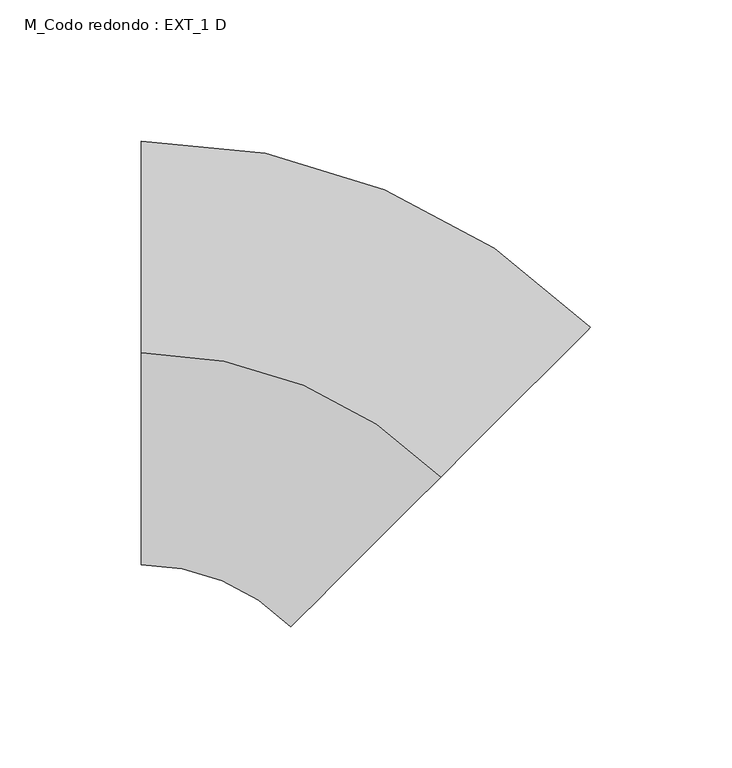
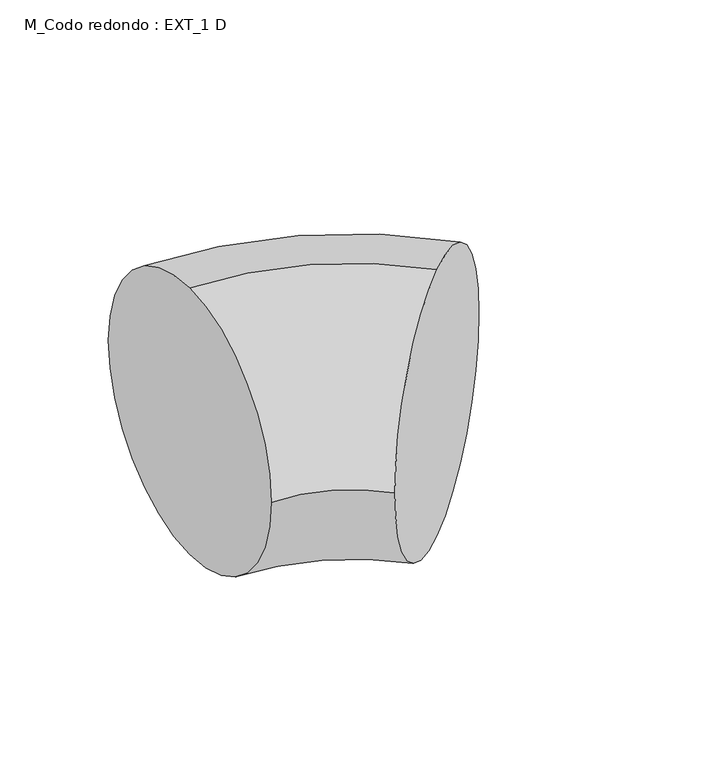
"""IFC4 building model written with IfcOpenShell, lengths in millimetres: duct fitting geometry, M_Codo redondo : EXT_1 D."""

from ifc_helpers import new_model, si_unit, point, frame, origin, place, context, project, spatial, circle_curve, ellipse_curve, trimmed, source, transform, mapped, element, save
from ifc_brep_helpers import plane_surface, revolved_surface, advanced_brep


def m_codo_redondo_ext_1_d_5003ae0d(model_context):
    return source(origin(), model_context, "Body", "AdvancedBrep", [
        advanced_brep(
        [(-62.1320344, 0.0, 75.0), (-62.1320344, 75.0, 0.0), (-62.1320344, 0.0, -75.0), (-62.1320344, -75.0, 0.0), (43.9339828, -43.9339828, 75.0), (-9.0990258, -96.9669914, 0.0), (43.9339828, -43.9339828, -75.0), (96.9669914, 9.0990258, 0.0)],
        [
            (0, 1, circle_curve(frame((-62.1320344, 0.0, 0.0), z_axis=(-1.0, 0.0, 0.0), x_axis=(0.0, -1.0, 0.0)), 75.0)),
            (1, 2, circle_curve(frame((-62.1320344, 0.0, 0.0), z_axis=(-1.0, 0.0, 0.0), x_axis=(0.0, -1.0, 0.0)), 75.0)),
            (2, 3, circle_curve(frame((-62.1320344, 0.0, 0.0), z_axis=(-1.0, 0.0, 0.0), x_axis=(0.0, -1.0, 0.0)), 75.0)),
            (3, 0, circle_curve(frame((-62.1320344, 0.0, 0.0), z_axis=(-1.0, 0.0, 0.0), x_axis=(0.0, -1.0, 0.0)), 75.0)),
            (4, 5, circle_curve(frame((43.9339828, -43.9339828, 0.0), z_axis=(0.7071067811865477, -0.7071067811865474, 0.0), x_axis=(-0.7071067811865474, -0.7071067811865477, 0.0)), 75.0)),
            (5, 6, circle_curve(frame((43.9339828, -43.9339828, 0.0), z_axis=(0.7071067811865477, -0.7071067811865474, 0.0), x_axis=(-0.7071067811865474, -0.7071067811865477, 0.0)), 75.0)),
            (6, 7, circle_curve(frame((43.9339828, -43.9339828, 0.0), z_axis=(0.7071067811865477, -0.7071067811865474, 0.0), x_axis=(-0.7071067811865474, -0.7071067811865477, 0.0)), 75.0)),
            (7, 4, circle_curve(frame((43.9339828, -43.9339828, 0.0), z_axis=(0.7071067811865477, -0.7071067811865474, 0.0), x_axis=(-0.7071067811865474, -0.7071067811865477, 0.0)), 75.0)),
            (4, 0, circle_curve(frame((-62.1320344, -150.0, 75.0), z_axis=(0.0, 0.0, 1.0), x_axis=(0.0, 1.0, 0.0)), 150.0)),
            (3, 5, circle_curve(frame((-62.1320344, -150.0, 0.0), z_axis=(0.0, 0.0, -1.0), x_axis=(0.0, 1.0, 0.0)), 75.0)),
            (2, 6, circle_curve(frame((-62.1320344, -150.0, -75.0), z_axis=(0.0, 0.0, -1.0), x_axis=(0.0, 1.0, 0.0)), 150.0)),
            (1, 7, circle_curve(frame((-62.1320344, -150.0, 0.0), z_axis=(0.0, 0.0, -1.0), x_axis=(0.0, 1.0, 0.0)), 225.0)),
        ],
        [
            plane_surface(frame((-62.1320344, 0.0, 0.0), z_axis=(-1.0, 0.0, 0.0), x_axis=(0.0, 0.0, 1.0))),
            plane_surface(frame((43.9339828, -43.9339828, 0.0), z_axis=(0.7071067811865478, -0.7071067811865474, 0.0), x_axis=(0.0, 0.0, 1.0))),
            revolved_surface(trimmed(ellipse_curve(frame((-62.1320344, 0.0, 0.0), z_axis=(1.0, 0.0, 0.0), x_axis=(0.0, -1.0, 0.0)), 75.0, 75.0), [point((-62.1320344, 0.0, 75.0))], [point((-62.1320344, -75.0, 0.0))], True, "CARTESIAN"), (-62.1320344, -150.0, 0.0), (0.0, 0.0, 1.0)),
            revolved_surface(trimmed(ellipse_curve(frame((-62.1320344, 0.0, 0.0), z_axis=(1.0, 0.0, 0.0), x_axis=(0.0, -1.0, 0.0)), 75.0, 75.0), [point((-62.1320344, -75.0, 0.0))], [point((-62.1320344, 0.0, -75.0))], True, "CARTESIAN"), (-62.1320344, -150.0, 0.0), (0.0, 0.0, 1.0)),
            revolved_surface(trimmed(ellipse_curve(frame((-62.1320344, 0.0, 0.0), z_axis=(1.0, 0.0, 0.0), x_axis=(0.0, -1.0, 0.0)), 75.0, 75.0), [point((-62.1320344, 0.0, -75.0))], [point((-62.1320344, 75.0, 0.0))], True, "CARTESIAN"), (-62.1320344, -150.0, 0.0), (0.0, 0.0, 1.0)),
            revolved_surface(trimmed(ellipse_curve(frame((-62.1320344, 0.0, 0.0), z_axis=(1.0, 0.0, 0.0), x_axis=(0.0, -1.0, 0.0)), 75.0, 75.0), [point((-62.1320344, 75.0, 0.0))], [point((-62.1320344, 0.0, 75.0))], True, "CARTESIAN"), (-62.1320344, -150.0, 0.0), (0.0, 0.0, 1.0)),
        ],
        [
            (0, [[1, 2, 3, 4]]),
            (1, [[5, 6, 7, 8]]),
            (2, [[-5, 9, -4, 10]]),
            (3, [[-6, -10, -3, 11]]),
            (4, [[-7, -11, -2, 12]]),
            (5, [[-8, -12, -1, -9]]),
        ],
    ),
    ])


if __name__ == "__main__":
    model = new_model("IFC4")
    model_context = context("Model", 3, world=origin())
    ifc_project = project(units=[si_unit("LENGTHUNIT", "METRE", prefix="MILLI")], contexts=[model_context])
    site = spatial("IfcSite", under=ifc_project)
    building = spatial("IfcBuilding", under=site)
    placement = place(None, origin())
    m_codo_redondo_ext_1_d_shape = m_codo_redondo_ext_1_d_5003ae0d(model_context)
    element("IfcDuctFitting", 1, ObjectType="M_Codo redondo : EXT_1 D", at=placement, inside=building, context=model_context, shape_type="MappedRepresentation", body=[
        mapped(m_codo_redondo_ext_1_d_shape, transform((0.0, 0.0, 0.0), x_axis=(1.0, 0.0, 0.0), y_axis=(0.0, 1.0, 0.0), z_axis=(0.0, 0.0, 1.0))),
    ])
    save(model, "model.ifc")
